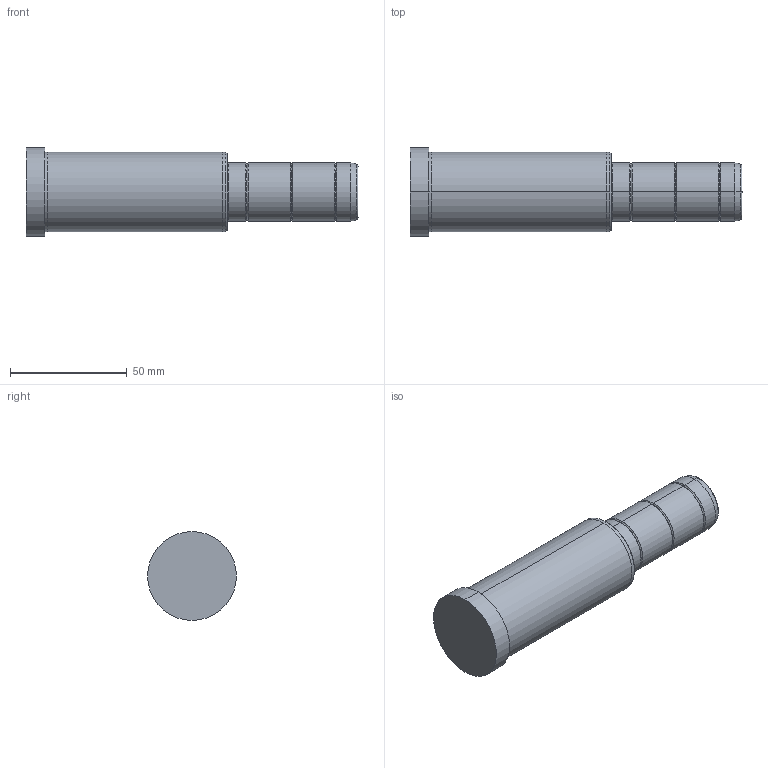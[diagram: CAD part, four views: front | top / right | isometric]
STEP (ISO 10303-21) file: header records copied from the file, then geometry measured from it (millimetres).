
FILE_DESCRIPTION( ( 'STEP AP203' ), '1' );
FILE_NAME( 'C:/Projects/D02 - 25x86x56.step', '2002-12-31T22:19:55', ( ' ' ), ( ' ' ), 'XStep 1.0', ' ', ' ' );
FILE_SCHEMA( ( 'CONFIG_CONTROL_DESIGN' ) );
Length unit declared in the file: metre
Products named in the file (1): 1
Bounding box: 142 x 38 x 38 mm (x, y, z)
Volume: 107259 mm3; surface area: 15959.1 mm2
Topology: 1 solids, 1 shells, 42 faces, 82 edges, 46 vertices
Faces by surface type: bspline 22, revolution 20
Entity records: 1325 total; most frequent: CARTESIAN_POINT 517, ORIENTED_EDGE 164, DIRECTION 134, EDGE_CURVE 82, AXIS2_PLACEMENT_3D 47, EDGE_LOOP 46, VERTEX_POINT 46, CIRCLE 46
